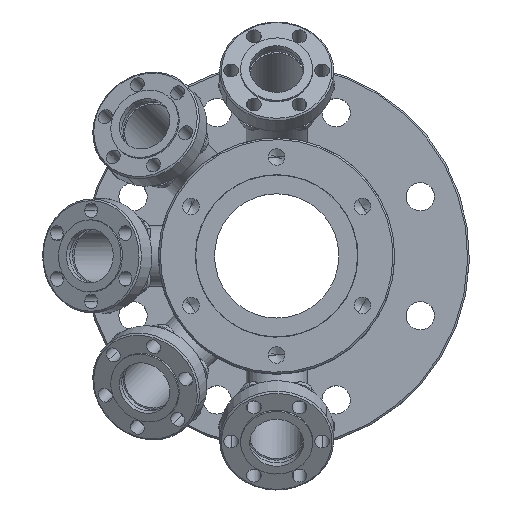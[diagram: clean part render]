
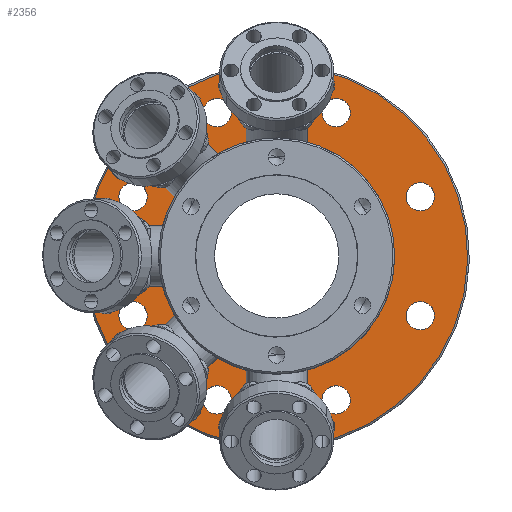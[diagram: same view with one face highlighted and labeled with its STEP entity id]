
A CAD part, top view. The second image highlights one B-rep face of the part: STEP entity #2356.
In plain terms, the highlighted planar face has unit normal (0, 0, 1) as drawn and (1, 0, 0) by its records, which use the part's own axes.
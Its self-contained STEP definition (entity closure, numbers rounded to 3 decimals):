
#2158=AXIS2_PLACEMENT_3D('Circle Axis2P3D',#2156,#2157,$) ;
#2175=AXIS2_PLACEMENT_3D('Circle Axis2P3D',#2173,#2174,$) ;
#2188=AXIS2_PLACEMENT_3D('Plane Axis2P3D',#2185,#2186,#2187) ;
#2192=AXIS2_PLACEMENT_3D('Circle Axis2P3D',#2190,#2191,$) ;
#2201=AXIS2_PLACEMENT_3D('Circle Axis2P3D',#2199,#2200,$) ;
#2210=AXIS2_PLACEMENT_3D('Circle Axis2P3D',#2208,#2209,$) ;
#2219=AXIS2_PLACEMENT_3D('Circle Axis2P3D',#2217,#2218,$) ;
#2232=AXIS2_PLACEMENT_3D('Circle Axis2P3D',#2230,#2231,$) ;
#2241=AXIS2_PLACEMENT_3D('Circle Axis2P3D',#2239,#2240,$) ;
#2250=AXIS2_PLACEMENT_3D('Circle Axis2P3D',#2248,#2249,$) ;
#2259=AXIS2_PLACEMENT_3D('Circle Axis2P3D',#2257,#2258,$) ;
#2268=AXIS2_PLACEMENT_3D('Circle Axis2P3D',#2266,#2267,$) ;
#2277=AXIS2_PLACEMENT_3D('Circle Axis2P3D',#2275,#2276,$) ;
#2286=AXIS2_PLACEMENT_3D('Circle Axis2P3D',#2284,#2285,$) ;
#2295=AXIS2_PLACEMENT_3D('Circle Axis2P3D',#2293,#2294,$) ;
#2304=AXIS2_PLACEMENT_3D('Circle Axis2P3D',#2302,#2303,$) ;
#2313=AXIS2_PLACEMENT_3D('Circle Axis2P3D',#2311,#2312,$) ;
#2322=AXIS2_PLACEMENT_3D('Circle Axis2P3D',#2320,#2321,$) ;
#2331=AXIS2_PLACEMENT_3D('Circle Axis2P3D',#2329,#2330,$) ;
#2340=AXIS2_PLACEMENT_3D('Circle Axis2P3D',#2338,#2339,$) ;
#2349=AXIS2_PLACEMENT_3D('Circle Axis2P3D',#2347,#2348,$) ;
#2137=CARTESIAN_POINT('Vertex',(17.,30.715,16.78)) ;
#2153=CARTESIAN_POINT('Vertex',(17.,-30.715,-16.78)) ;
#2156=CARTESIAN_POINT('Axis2P3D Location',(17.,0.,0.)) ;
#2173=CARTESIAN_POINT('Axis2P3D Location',(17.,0.,0.)) ;
#2185=CARTESIAN_POINT('Axis2P3D Location',(17.,35.,0.)) ;
#2190=CARTESIAN_POINT('Axis2P3D Location',(17.,0.,0.)) ;
#2194=CARTESIAN_POINT('Vertex',(17.,-49.715,-27.159)) ;
#2196=CARTESIAN_POINT('Vertex',(17.,49.715,27.159)) ;
#2199=CARTESIAN_POINT('Axis2P3D Location',(17.,0.,0.)) ;
#2208=CARTESIAN_POINT('Axis2P3D Location',(17.,-42.591,-17.642)) ;
#2212=CARTESIAN_POINT('Vertex',(17.,-38.905,-15.628)) ;
#2214=CARTESIAN_POINT('Vertex',(17.,-46.277,-19.655)) ;
#2217=CARTESIAN_POINT('Axis2P3D Location',(17.,-42.591,-17.642)) ;
#2230=CARTESIAN_POINT('Axis2P3D Location',(17.,-17.642,-42.591)) ;
#2234=CARTESIAN_POINT('Vertex',(17.,-21.328,-44.604)) ;
#2236=CARTESIAN_POINT('Vertex',(17.,-13.956,-40.577)) ;
#2239=CARTESIAN_POINT('Axis2P3D Location',(17.,-17.642,-42.591)) ;
#2248=CARTESIAN_POINT('Axis2P3D Location',(17.,17.642,-42.591)) ;
#2252=CARTESIAN_POINT('Vertex',(17.,13.956,-44.604)) ;
#2254=CARTESIAN_POINT('Vertex',(17.,21.328,-40.577)) ;
#2257=CARTESIAN_POINT('Axis2P3D Location',(17.,17.642,-42.591)) ;
#2266=CARTESIAN_POINT('Axis2P3D Location',(17.,42.591,-17.642)) ;
#2270=CARTESIAN_POINT('Vertex',(17.,38.905,-19.655)) ;
#2272=CARTESIAN_POINT('Vertex',(17.,46.277,-15.628)) ;
#2275=CARTESIAN_POINT('Axis2P3D Location',(17.,42.591,-17.642)) ;
#2284=CARTESIAN_POINT('Axis2P3D Location',(17.,42.591,17.642)) ;
#2288=CARTESIAN_POINT('Vertex',(17.,38.905,15.628)) ;
#2290=CARTESIAN_POINT('Vertex',(17.,46.277,19.655)) ;
#2293=CARTESIAN_POINT('Axis2P3D Location',(17.,42.591,17.642)) ;
#2302=CARTESIAN_POINT('Axis2P3D Location',(17.,17.642,42.591)) ;
#2306=CARTESIAN_POINT('Vertex',(17.,13.956,40.577)) ;
#2308=CARTESIAN_POINT('Vertex',(17.,21.328,44.604)) ;
#2311=CARTESIAN_POINT('Axis2P3D Location',(17.,17.642,42.591)) ;
#2320=CARTESIAN_POINT('Axis2P3D Location',(17.,-17.642,42.591)) ;
#2324=CARTESIAN_POINT('Vertex',(17.,-21.328,40.577)) ;
#2326=CARTESIAN_POINT('Vertex',(17.,-13.956,44.604)) ;
#2329=CARTESIAN_POINT('Axis2P3D Location',(17.,-17.642,42.591)) ;
#2338=CARTESIAN_POINT('Axis2P3D Location',(17.,-42.591,17.642)) ;
#2342=CARTESIAN_POINT('Vertex',(17.,-46.277,15.628)) ;
#2344=CARTESIAN_POINT('Vertex',(17.,-38.905,19.655)) ;
#2347=CARTESIAN_POINT('Axis2P3D Location',(17.,-42.591,17.642)) ;
#2157=DIRECTION('Axis2P3D Direction',(1.,0.,0.)) ;
#2174=DIRECTION('Axis2P3D Direction',(1.,0.,0.)) ;
#2186=DIRECTION('Axis2P3D Direction',(1.,0.,0.)) ;
#2187=DIRECTION('Axis2P3D XDirection',(0.,1.,0.)) ;
#2191=DIRECTION('Axis2P3D Direction',(1.,0.,0.)) ;
#2200=DIRECTION('Axis2P3D Direction',(1.,0.,0.)) ;
#2209=DIRECTION('Axis2P3D Direction',(1.,0.,0.)) ;
#2218=DIRECTION('Axis2P3D Direction',(1.,0.,0.)) ;
#2231=DIRECTION('Axis2P3D Direction',(1.,0.,0.)) ;
#2240=DIRECTION('Axis2P3D Direction',(1.,0.,0.)) ;
#2249=DIRECTION('Axis2P3D Direction',(1.,0.,0.)) ;
#2258=DIRECTION('Axis2P3D Direction',(1.,0.,0.)) ;
#2267=DIRECTION('Axis2P3D Direction',(1.,0.,0.)) ;
#2276=DIRECTION('Axis2P3D Direction',(1.,0.,0.)) ;
#2285=DIRECTION('Axis2P3D Direction',(1.,0.,0.)) ;
#2294=DIRECTION('Axis2P3D Direction',(1.,0.,0.)) ;
#2303=DIRECTION('Axis2P3D Direction',(1.,0.,0.)) ;
#2312=DIRECTION('Axis2P3D Direction',(1.,0.,0.)) ;
#2321=DIRECTION('Axis2P3D Direction',(1.,0.,0.)) ;
#2330=DIRECTION('Axis2P3D Direction',(1.,0.,0.)) ;
#2339=DIRECTION('Axis2P3D Direction',(1.,0.,0.)) ;
#2348=DIRECTION('Axis2P3D Direction',(1.,0.,0.)) ;
#2205=ORIENTED_EDGE('',*,*,#2198,.T.) ;
#2206=ORIENTED_EDGE('',*,*,#2203,.T.) ;
#2223=ORIENTED_EDGE('',*,*,#2216,.F.) ;
#2224=ORIENTED_EDGE('',*,*,#2221,.F.) ;
#2227=ORIENTED_EDGE('',*,*,#2177,.F.) ;
#2228=ORIENTED_EDGE('',*,*,#2160,.F.) ;
#2245=ORIENTED_EDGE('',*,*,#2238,.F.) ;
#2246=ORIENTED_EDGE('',*,*,#2243,.F.) ;
#2263=ORIENTED_EDGE('',*,*,#2256,.F.) ;
#2264=ORIENTED_EDGE('',*,*,#2261,.F.) ;
#2281=ORIENTED_EDGE('',*,*,#2274,.F.) ;
#2282=ORIENTED_EDGE('',*,*,#2279,.F.) ;
#2299=ORIENTED_EDGE('',*,*,#2292,.F.) ;
#2300=ORIENTED_EDGE('',*,*,#2297,.F.) ;
#2317=ORIENTED_EDGE('',*,*,#2310,.F.) ;
#2318=ORIENTED_EDGE('',*,*,#2315,.F.) ;
#2335=ORIENTED_EDGE('',*,*,#2328,.F.) ;
#2336=ORIENTED_EDGE('',*,*,#2333,.F.) ;
#2353=ORIENTED_EDGE('',*,*,#2346,.F.) ;
#2354=ORIENTED_EDGE('',*,*,#2351,.F.) ;
#2225=FACE_BOUND('',#2222,.T.) ;
#2229=FACE_BOUND('',#2226,.T.) ;
#2247=FACE_BOUND('',#2244,.T.) ;
#2265=FACE_BOUND('',#2262,.T.) ;
#2283=FACE_BOUND('',#2280,.T.) ;
#2301=FACE_BOUND('',#2298,.T.) ;
#2319=FACE_BOUND('',#2316,.T.) ;
#2337=FACE_BOUND('',#2334,.T.) ;
#2355=FACE_BOUND('',#2352,.T.) ;
#2356=ADVANCED_FACE('Hauptk\X2\00F6\X0\rper',(#2207,#2225,#2229,#2247,#2265,#2283,#2301,#2319,#2337,#2355),#2189,.T.) ;
#2159=CIRCLE('generated circle',#2158,35.) ;
#2176=CIRCLE('generated circle',#2175,35.) ;
#2193=CIRCLE('generated circle',#2192,56.65) ;
#2202=CIRCLE('generated circle',#2201,56.65) ;
#2211=CIRCLE('generated circle',#2210,4.2) ;
#2220=CIRCLE('generated circle',#2219,4.2) ;
#2233=CIRCLE('generated circle',#2232,4.2) ;
#2242=CIRCLE('generated circle',#2241,4.2) ;
#2251=CIRCLE('generated circle',#2250,4.2) ;
#2260=CIRCLE('generated circle',#2259,4.2) ;
#2269=CIRCLE('generated circle',#2268,4.2) ;
#2278=CIRCLE('generated circle',#2277,4.2) ;
#2287=CIRCLE('generated circle',#2286,4.2) ;
#2296=CIRCLE('generated circle',#2295,4.2) ;
#2305=CIRCLE('generated circle',#2304,4.2) ;
#2314=CIRCLE('generated circle',#2313,4.2) ;
#2323=CIRCLE('generated circle',#2322,4.2) ;
#2332=CIRCLE('generated circle',#2331,4.2) ;
#2341=CIRCLE('generated circle',#2340,4.2) ;
#2350=CIRCLE('generated circle',#2349,4.2) ;
#2160=EDGE_CURVE('',#2154,#2138,#2159,.T.) ;
#2177=EDGE_CURVE('',#2138,#2154,#2176,.T.) ;
#2198=EDGE_CURVE('',#2195,#2197,#2193,.T.) ;
#2203=EDGE_CURVE('',#2197,#2195,#2202,.T.) ;
#2216=EDGE_CURVE('',#2213,#2215,#2211,.T.) ;
#2221=EDGE_CURVE('',#2215,#2213,#2220,.T.) ;
#2238=EDGE_CURVE('',#2235,#2237,#2233,.T.) ;
#2243=EDGE_CURVE('',#2237,#2235,#2242,.T.) ;
#2256=EDGE_CURVE('',#2253,#2255,#2251,.T.) ;
#2261=EDGE_CURVE('',#2255,#2253,#2260,.T.) ;
#2274=EDGE_CURVE('',#2271,#2273,#2269,.T.) ;
#2279=EDGE_CURVE('',#2273,#2271,#2278,.T.) ;
#2292=EDGE_CURVE('',#2289,#2291,#2287,.T.) ;
#2297=EDGE_CURVE('',#2291,#2289,#2296,.T.) ;
#2310=EDGE_CURVE('',#2307,#2309,#2305,.T.) ;
#2315=EDGE_CURVE('',#2309,#2307,#2314,.T.) ;
#2328=EDGE_CURVE('',#2325,#2327,#2323,.T.) ;
#2333=EDGE_CURVE('',#2327,#2325,#2332,.T.) ;
#2346=EDGE_CURVE('',#2343,#2345,#2341,.T.) ;
#2351=EDGE_CURVE('',#2345,#2343,#2350,.T.) ;
#2204=EDGE_LOOP('',(#2205,#2206)) ;
#2222=EDGE_LOOP('',(#2223,#2224)) ;
#2226=EDGE_LOOP('',(#2227,#2228)) ;
#2244=EDGE_LOOP('',(#2245,#2246)) ;
#2262=EDGE_LOOP('',(#2263,#2264)) ;
#2280=EDGE_LOOP('',(#2281,#2282)) ;
#2298=EDGE_LOOP('',(#2299,#2300)) ;
#2316=EDGE_LOOP('',(#2317,#2318)) ;
#2334=EDGE_LOOP('',(#2335,#2336)) ;
#2352=EDGE_LOOP('',(#2353,#2354)) ;
#2207=FACE_OUTER_BOUND('',#2204,.T.) ;
#2189=PLANE('',#2188) ;
#2138=VERTEX_POINT('',#2137) ;
#2154=VERTEX_POINT('',#2153) ;
#2195=VERTEX_POINT('',#2194) ;
#2197=VERTEX_POINT('',#2196) ;
#2213=VERTEX_POINT('',#2212) ;
#2215=VERTEX_POINT('',#2214) ;
#2235=VERTEX_POINT('',#2234) ;
#2237=VERTEX_POINT('',#2236) ;
#2253=VERTEX_POINT('',#2252) ;
#2255=VERTEX_POINT('',#2254) ;
#2271=VERTEX_POINT('',#2270) ;
#2273=VERTEX_POINT('',#2272) ;
#2289=VERTEX_POINT('',#2288) ;
#2291=VERTEX_POINT('',#2290) ;
#2307=VERTEX_POINT('',#2306) ;
#2309=VERTEX_POINT('',#2308) ;
#2325=VERTEX_POINT('',#2324) ;
#2327=VERTEX_POINT('',#2326) ;
#2343=VERTEX_POINT('',#2342) ;
#2345=VERTEX_POINT('',#2344) ;
